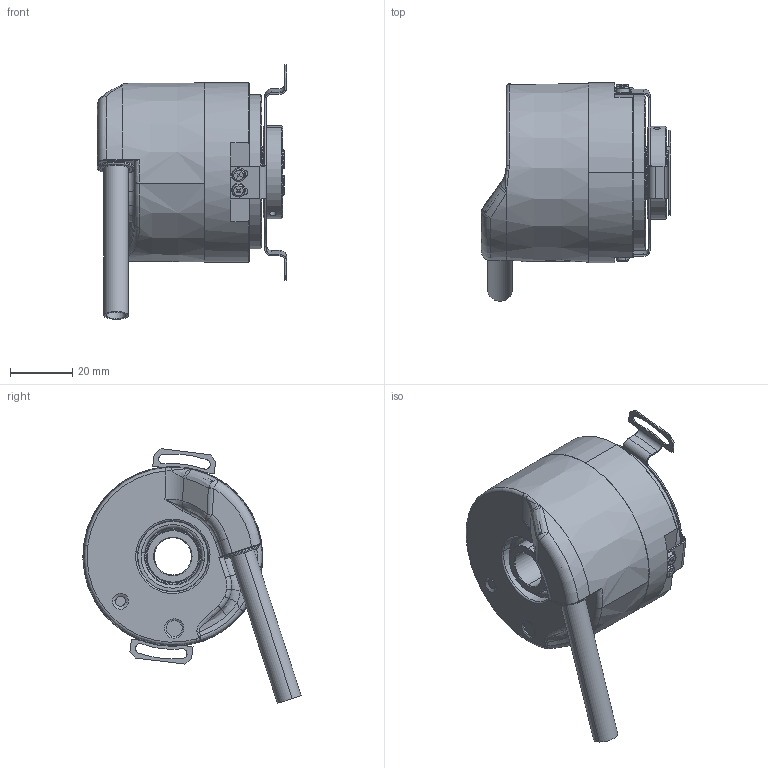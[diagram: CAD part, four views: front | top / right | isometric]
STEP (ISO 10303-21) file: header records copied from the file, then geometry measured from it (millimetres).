
FILE_DESCRIPTION (( 'STEP AP203' ), '1' );
FILE_NAME ('8.5834.54XE.XXXX.STEP', '2013-11-22T07:51:13', ( 'HeirlerN' ), ( 'Microsoft' ), 'SwSTEP 2.0', 'SolidWorks 2013', '' );
FILE_SCHEMA (( 'CONFIG_CONTROL_DESIGN' ));
Length unit declared in the file: millimetre
Products named in the file (1): 8.5834.54XE.XXXX
Bounding box: 60.97 x 70.35 x 82.08 mm (x, y, z)
Volume: 69211.9 mm3; surface area: 48087.7 mm2
Topology: 14 solids, 15 shells, 1734 faces, 4209 edges, 2515 vertices
Faces by surface type: cylinder 563, plane 416, bspline 361, cone 170, torus 170, sphere 54
Entity records: 62389 total; most frequent: CARTESIAN_POINT 24957, ORIENTED_EDGE 8178, DIRECTION 7408, EDGE_CURVE 4089, AXIS2_PLACEMENT_3D 3027, VERTEX_POINT 2479, EDGE_LOOP 1904, ADVANCED_FACE 1734
